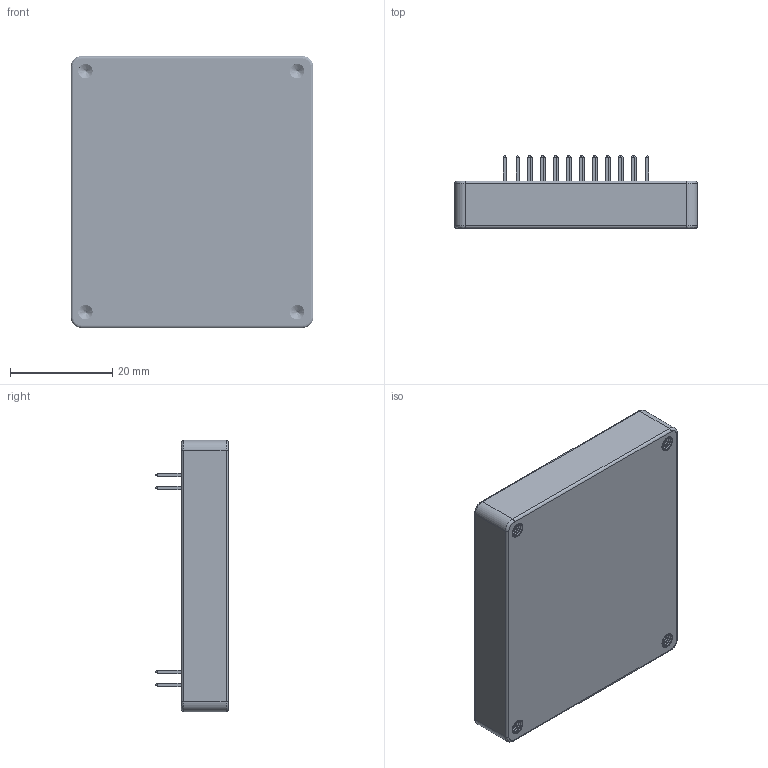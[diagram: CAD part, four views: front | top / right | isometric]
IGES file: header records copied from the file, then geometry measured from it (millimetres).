
Start section: SolidWorks IGES file using analytic representation for surfaces
Global section: file name: J:\FREELACER\NEW 2017\41\Pro-100-MCi-7A\SEND\1\MCi-7A-shrink wrap.IGS; native system: SolidWorks 2021; preprocessor: SolidWorks 2021; author: ADMIN; date: 230702.115446; units: millimetre
Bounding box: 47.5 x 14.34 x 53.25 mm (x, y, z)
Surface area: 14943.7 mm2 (no closed solid volume)
Topology: 0 solids, 0 shells, 3975 faces, 31636 edges, 31507 vertices
Faces by surface type: bspline 2769, revolution 1206
